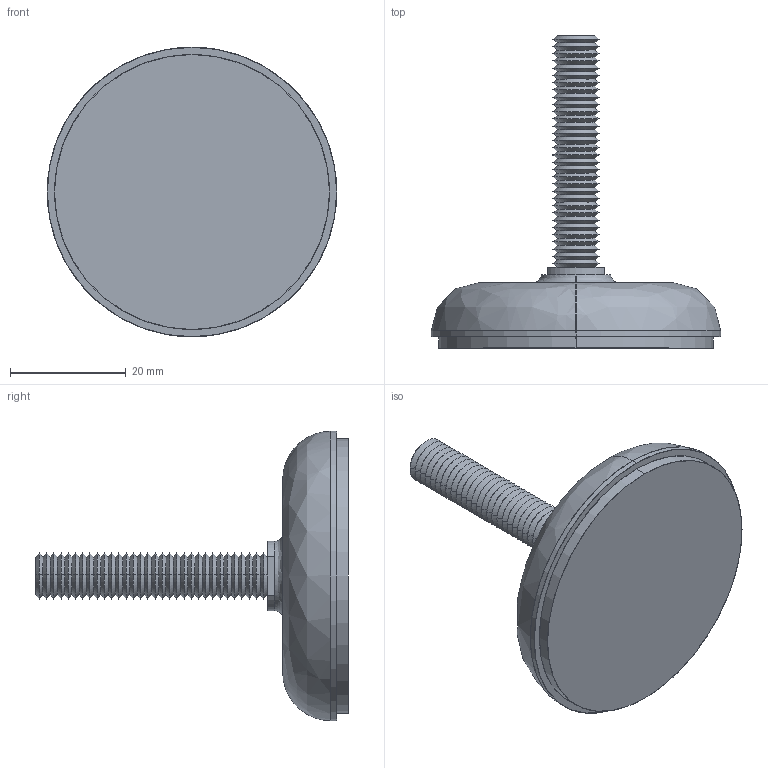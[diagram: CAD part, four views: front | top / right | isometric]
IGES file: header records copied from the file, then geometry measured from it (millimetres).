
Start section: SolidWorks IGES file using analytic representation for surfaces
Global section: file name: C:\Documents and Settings\IANO\Desktop\Temp File\Process pending\EXISTING\34780_v2\34780_v2_20170626_IGES\34780.W0086.igs; native system: SolidWorks 2009; preprocessor: SolidWorks 2009; author: IANO; date: 170626.122227; units: millimetre
Bounding box: 50 x 54 x 50 mm (x, y, z)
Surface area: 16187.2 mm2 (no closed solid volume)
Topology: 0 solids, 0 shells, 200 faces, 1746 edges, 1746 vertices
Faces by surface type: revolution 172, bspline 28
